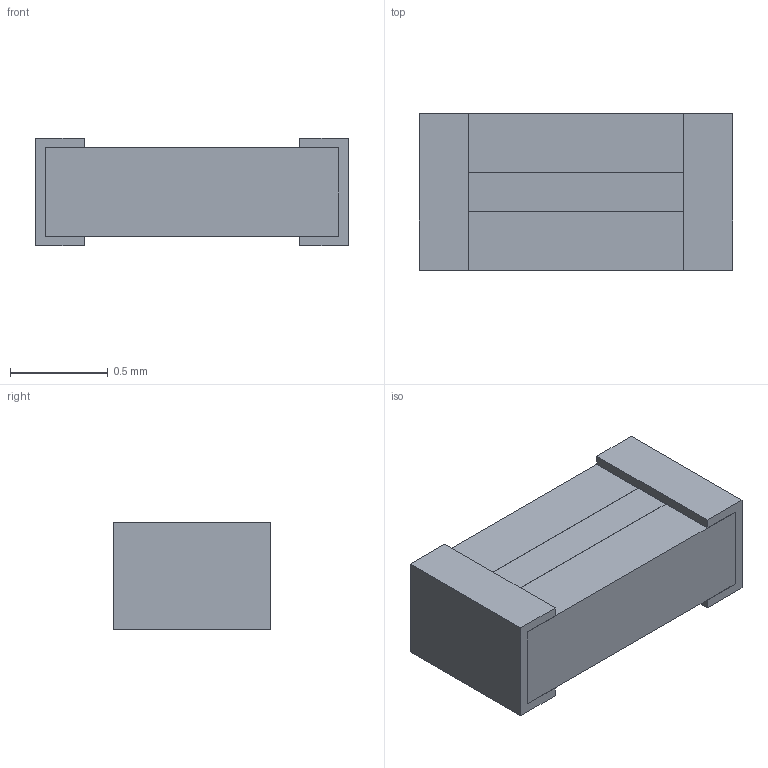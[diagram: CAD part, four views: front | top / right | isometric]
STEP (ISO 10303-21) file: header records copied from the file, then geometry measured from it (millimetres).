
FILE_DESCRIPTION(('STEP AP203'), '1');
FILE_NAME('Ð1-8 0603 ', '', ('UNSPECIFIED'), ('UNSPECIFIED'), 'ASCON STEP Converter 1.6', 'ASCON Math Kernel', '');
FILE_SCHEMA(('CONFIG_CONTROL_DESIGN'));
Length unit declared in the file: millimetre
Bounding box: 1.6 x 0.8 x 0.55 mm (x, y, z)
Volume: 0.6 mm3; surface area: 8.6 mm2
Topology: 4 solids, 5 shells, 51 faces, 123 edges, 82 vertices
Faces by surface type: plane 47, cylinder 4
Entity records: 1937 total; most frequent: CARTESIAN_POINT 257, ORIENTED_EDGE 246, DIRECTION 235, EDGE_CURVE 123, LINE 115, VECTOR 115, VERTEX_POINT 82, AXIS2_PLACEMENT_3D 60
